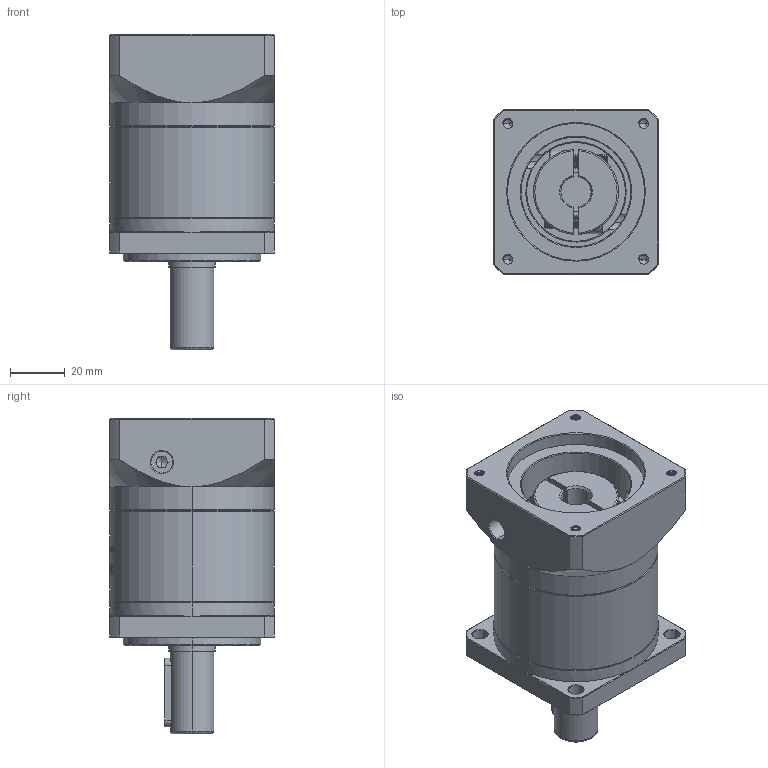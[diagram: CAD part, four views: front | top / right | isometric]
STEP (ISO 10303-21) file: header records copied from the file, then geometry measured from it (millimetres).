
FILE_DESCRIPTION (( 'STEP AP214' ), '1' );
FILE_NAME ('ZF060-D16-L1-P2-11-50-70-M4.step', '2023-08-16T04:25:32', ( '' ), ( '' ), 'SwSTEP 2.0', 'SolidWorks 2016', '' );
FILE_SCHEMA (( 'AUTOMOTIVE_DESIGN' ));
Length unit declared in the file: millimetre
Products named in the file (1): ZF060-D16-L1-P2-11-50-70-M4
Bounding box: 60 x 60 x 115 mm (x, y, z)
Volume: 223017.1 mm3; surface area: 43938 mm2
Topology: 6 solids, 6 shells, 1734 faces, 4694 edges, 3043 vertices
Faces by surface type: plane 794, bspline 354, cylinder 332, cone 236, torus 18
Entity records: 96247 total; most frequent: CARTESIAN_POINT 37708, ORIENTED_EDGE 9360, DIRECTION 6704, EDGE_CURVE 4680, VERTEX_POINT 3043, LINE 2372, VECTOR 2372, AXIS2_PLACEMENT_3D 2166
